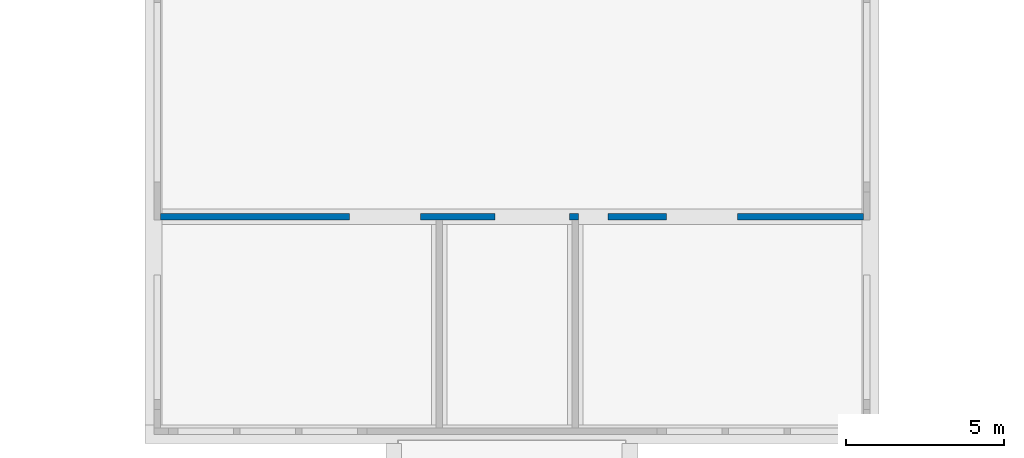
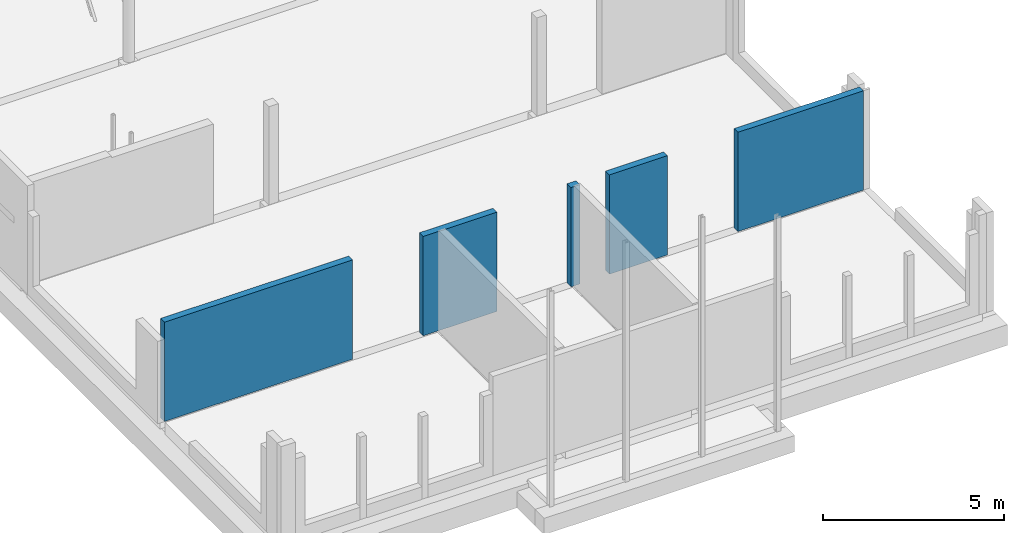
# One storey, part 16 of 17: 1 wall.
"""IFC2X3 building model written with IfcOpenShell, lengths in millimetres."""

from ifc_helpers import new_model, entity, si_unit, converted_unit, derived_unit, direction, frame, origin, place, context, subcontext, project, spatial, faceted_brep, material, layer, layer_set, type_object, element, save


model = new_model("IFC2X3")

# Units and contexts
model_context = context("Model", 3, precision=0.01, world=origin(), true_north=direction((6.123031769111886e-17, 1.0)))
body_context = subcontext(model_context, "Body", "Model", "MODEL_VIEW")
ifc_project = project(units=[si_unit("LENGTHUNIT", "METRE", prefix="MILLI"), si_unit("AREAUNIT", "SQUARE_METRE", prefix="MILLI"), si_unit("VOLUMEUNIT", "CUBIC_METRE"), converted_unit("PLANEANGLEUNIT", "DEGREE", entity("IfcPlaneAngleMeasure", 0.017453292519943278), si_unit("PLANEANGLEUNIT", "RADIAN"), dimensions=[0, 0, 0, 0, 0, 0, 0]), si_unit("MASSUNIT", "GRAM", prefix="KILO"), derived_unit("MASSDENSITYUNIT", [(si_unit("MASSUNIT", "GRAM", prefix="KILO"), 1), (si_unit("LENGTHUNIT", "METRE"), -3)]), derived_unit("IONCONCENTRATIONUNIT", [(si_unit("MASSUNIT", "GRAM", prefix="KILO"), 1), (si_unit("LENGTHUNIT", "METRE"), -3)]), derived_unit("MOMENTOFINERTIAUNIT", [(si_unit("LENGTHUNIT", "METRE"), 4)]), si_unit("TIMEUNIT", "SECOND"), si_unit("FREQUENCYUNIT", "HERTZ"), si_unit("THERMODYNAMICTEMPERATUREUNIT", "DEGREE_CELSIUS"), derived_unit("THERMALTRANSMITTANCEUNIT", [(si_unit("MASSUNIT", "GRAM", prefix="KILO"), 1), (si_unit("THERMODYNAMICTEMPERATUREUNIT", "KELVIN"), -1), (si_unit("TIMEUNIT", "SECOND"), -3)]), derived_unit("THERMALCONDUCTANCEUNIT", [(si_unit("MASSUNIT", "GRAM", prefix="KILO"), 1), (si_unit("THERMODYNAMICTEMPERATUREUNIT", "KELVIN"), -1), (si_unit("TIMEUNIT", "SECOND"), -3), (si_unit("LENGTHUNIT", "METRE"), 1)]), derived_unit("VOLUMETRICFLOWRATEUNIT", [(si_unit("LENGTHUNIT", "METRE", prefix="DECI"), 3), (si_unit("TIMEUNIT", "SECOND"), -1)]), derived_unit("MASSFLOWRATEUNIT", [(si_unit("MASSUNIT", "GRAM", prefix="KILO"), 1), (si_unit("TIMEUNIT", "SECOND"), -1)]), derived_unit("ROTATIONALFREQUENCYUNIT", [(si_unit("TIMEUNIT", "SECOND"), -1)]), si_unit("ELECTRICCURRENTUNIT", "AMPERE"), si_unit("ELECTRICVOLTAGEUNIT", "VOLT"), si_unit("POWERUNIT", "WATT"), si_unit("FORCEUNIT", "NEWTON", prefix="KILO"), si_unit("ILLUMINANCEUNIT", "LUX"), si_unit("LUMINOUSFLUXUNIT", "LUMEN"), si_unit("LUMINOUSINTENSITYUNIT", "CANDELA"), si_unit("ENERGYUNIT", "JOULE"), derived_unit("USERDEFINED", [(si_unit("MASSUNIT", "GRAM", prefix="KILO"), -1), (si_unit("LENGTHUNIT", "METRE"), -2), (si_unit("TIMEUNIT", "SECOND"), 3), (si_unit("LUMINOUSFLUXUNIT", "LUMEN"), 1)]), derived_unit("USERDEFINED", [(si_unit("MASSUNIT", "GRAM", prefix="KILO"), 1), (si_unit("TIMEUNIT", "SECOND"), -3), (si_unit("LENGTHUNIT", "METRE"), 3), (si_unit("ELECTRICCURRENTUNIT", "AMPERE"), -2)]), derived_unit("SOUNDPOWERUNIT", [(si_unit("MASSUNIT", "GRAM", prefix="KILO"), 1), (si_unit("TIMEUNIT", "SECOND"), -3), (si_unit("LENGTHUNIT", "METRE"), 2)]), derived_unit("SOUNDPRESSUREUNIT", [(si_unit("MASSUNIT", "GRAM", prefix="KILO"), 1), (si_unit("LENGTHUNIT", "METRE"), -1), (si_unit("TIMEUNIT", "SECOND"), -2)]), derived_unit("LINEARVELOCITYUNIT", [(si_unit("LENGTHUNIT", "METRE"), 1), (si_unit("TIMEUNIT", "SECOND"), -1)]), si_unit("PRESSUREUNIT", "PASCAL"), derived_unit("USERDEFINED", [(si_unit("MASSUNIT", "GRAM", prefix="KILO"), 1), (si_unit("LENGTHUNIT", "METRE"), -2), (si_unit("TIMEUNIT", "SECOND"), -2)]), derived_unit("LINEARFORCEUNIT", [(si_unit("MASSUNIT", "GRAM", prefix="KILO"), 1), (si_unit("TIMEUNIT", "SECOND"), -2)]), derived_unit("PLANARFORCEUNIT", [(si_unit("MASSUNIT", "GRAM", prefix="KILO"), 1), (si_unit("LENGTHUNIT", "METRE"), -1), (si_unit("TIMEUNIT", "SECOND"), -2)]), derived_unit("SPECIFICHEATCAPACITYUNIT", [(si_unit("THERMODYNAMICTEMPERATUREUNIT", "KELVIN"), -1), (si_unit("LENGTHUNIT", "METRE"), 2), (si_unit("TIMEUNIT", "SECOND"), -2)]), derived_unit("HEATFLUXDENSITYUNIT", [(si_unit("MASSUNIT", "GRAM", prefix="KILO"), 1), (si_unit("TIMEUNIT", "SECOND"), -3)]), derived_unit("HEATINGVALUEUNIT", [(si_unit("LENGTHUNIT", "METRE"), 2), (si_unit("TIMEUNIT", "SECOND"), -2)]), derived_unit("VAPORPERMEABILITYUNIT", [(si_unit("LENGTHUNIT", "METRE"), -1), (si_unit("TIMEUNIT", "SECOND"), 1)]), derived_unit("DYNAMICVISCOSITYUNIT", [(si_unit("MASSUNIT", "GRAM", prefix="KILO"), 1), (si_unit("TIMEUNIT", "SECOND"), -1), (si_unit("LENGTHUNIT", "METRE"), -1)]), derived_unit("THERMALEXPANSIONCOEFFICIENTUNIT", [(si_unit("THERMODYNAMICTEMPERATUREUNIT", "KELVIN"), -1)]), derived_unit("MODULUSOFELASTICITYUNIT", [(si_unit("MASSUNIT", "GRAM", prefix="KILO"), 1), (si_unit("LENGTHUNIT", "METRE"), -1), (si_unit("TIMEUNIT", "SECOND"), -2)]), derived_unit("ISOTHERMALMOISTURECAPACITYUNIT", [(si_unit("MASSUNIT", "GRAM", prefix="KILO"), -1), (si_unit("LENGTHUNIT", "METRE"), 3)]), derived_unit("MOISTUREDIFFUSIVITYUNIT", [(si_unit("TIMEUNIT", "SECOND"), -1), (si_unit("LENGTHUNIT", "METRE"), 2)]), derived_unit("MASSPERLENGTHUNIT", [(si_unit("MASSUNIT", "GRAM", prefix="KILO"), 1), (si_unit("LENGTHUNIT", "METRE"), -1)]), derived_unit("THERMALRESISTANCEUNIT", [(si_unit("MASSUNIT", "GRAM", prefix="KILO"), -1), (si_unit("TIMEUNIT", "SECOND"), 3), (si_unit("THERMODYNAMICTEMPERATUREUNIT", "KELVIN"), 1)]), derived_unit("ACCELERATIONUNIT", [(si_unit("LENGTHUNIT", "METRE"), 1), (si_unit("TIMEUNIT", "SECOND"), -2)]), derived_unit("ANGULARVELOCITYUNIT", [(si_unit("TIMEUNIT", "SECOND"), -1), (si_unit("PLANEANGLEUNIT", "RADIAN"), 1)]), derived_unit("LINEARSTIFFNESSUNIT", [(si_unit("MASSUNIT", "GRAM", prefix="KILO"), 1), (si_unit("TIMEUNIT", "SECOND"), -2)]), derived_unit("WARPINGCONSTANTUNIT", [(si_unit("LENGTHUNIT", "METRE"), 6)]), derived_unit("LINEARMOMENTUNIT", [(si_unit("MASSUNIT", "GRAM", prefix="KILO"), 1), (si_unit("LENGTHUNIT", "METRE"), 1), (si_unit("TIMEUNIT", "SECOND"), -2)]), derived_unit("TORQUEUNIT", [(si_unit("MASSUNIT", "GRAM", prefix="KILO"), 1), (si_unit("LENGTHUNIT", "METRE"), 2), (si_unit("TIMEUNIT", "SECOND"), -2)])], contexts=[model_context])

# Site, building, storey
site_placement = place(None, origin())
site = spatial("IfcSite", under=ifc_project, at=site_placement, Name="Default", CompositionType="ELEMENT")
building_placement = place(site_placement, origin())
building = spatial("IfcBuilding", under=site, at=building_placement, CompositionType="ELEMENT")
storey_placement = place(building_placement, frame((0.0, 0.0, -70.0)))
storey = spatial("IfcBuildingStorey", under=building, at=storey_placement, Name="F1 begg (bk ruwe vloer)", CompositionType="ELEMENT", Elevation=-69.99999999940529)

# Wall
ifc_material = material(Name="Kalkzandsteen, lijmwerk CS12")
ifc_layer = layer(ifc_material, 214.0)
ifc_layer_set = layer_set([ifc_layer], Name="Basic Wall:bt_kzst 214")
wall_type = type_object("IfcWallType", Name="Basic Wall:bt_kzst 214", PredefinedType="STANDARD", material=ifc_layer_set)
wall_placement = place(storey_placement, frame((6825.000781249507, 9844.605013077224, 0.0)))
element("IfcWall", 1, at=wall_placement, inside=storey, type_object=wall_type, Name="Basic Wall:bt_kzst 214", ObjectType="Basic Wall:bt_kzst 214", context=body_context, shape_type="Brep", body=[
    faceted_brep([(6000.963806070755, -107.0, 0.0), (6000.963806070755, -107.0, 3350.0), (0.0, -107.0, 3350.0), (0.0, -107.0, 2778.0), (0.0, -107.0, 0.0), (6000.963806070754, 107.0, 0.0), (6000.963806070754, 107.0, 3350.0), (6000.963806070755, 0.0, 3350.0), (0.0, 0.0, 3350.0), (0.0, 107.0, 3350.0), (0.0, 107.0, 0.0)], [[[0, 1, 2, 3, 4]], [[1, 0, 5, 6, 7]], [[4, 3, 2, 8, 9, 10]], [[8, 2, 1, 7]], [[9, 8, 7, 6]], [[5, 0, 4, 10]], [[6, 5, 10, 9]]]),
    faceted_brep([(18300.208262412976, 107.0, 0.0), (18300.208262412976, 107.0, 3350.0), (22299.984988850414, 107.0, 3350.0), (22299.984988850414, 107.0, 0.0), (22299.984988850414, 0.0, 3350.0), (18300.208262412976, 0.0, 3350.0), (18300.208262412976, -107.0, 0.0), (18300.208262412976, -107.0, 3350.0), (22299.984988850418, -107.0, 0.0), (22299.984988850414, -107.0, 3350.0), (22299.984988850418, -107.0, 2778.0)], [[[0, 1, 2, 3]], [[4, 2, 1, 5]], [[6, 7, 5, 1, 0]], [[8, 3, 2, 4, 9, 10]], [[9, 4, 5, 7]], [[6, 0, 3, 8]], [[7, 6, 8, 10, 9]]]),
    faceted_brep([(12969.796203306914, -107.0, 0.0), (12969.796203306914, 107.0, 0.0), (13260.230390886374, 107.0, 0.0), (13260.230390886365, -107.0, 0.0), (13046.354973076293, -107.0, 0.0), (12969.796203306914, 0.0, 3350.0), (12969.796203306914, -107.0, 3350.0), (13260.230390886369, -107.0, 3350.0), (13260.230390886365, 0.0, 3350.0), (12969.796203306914, 107.0, 3350.0), (13260.230390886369, 107.0, 3350.0)], [[[0, 1, 2, 3, 4]], [[5, 6, 7, 8]], [[0, 6, 5, 9, 1]], [[7, 3, 2, 10, 8]], [[9, 5, 8, 10]], [[1, 9, 10, 2]], [[6, 0, 4, 3, 7]]]),
    faceted_brep([(16049.33864469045, -107.0, 3350.0), (16049.33864469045, -107.0, 0.0), (16049.33864469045, 107.0, 0.0), (16049.33864469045, 107.0, 3350.0), (16049.33864469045, 0.0, 3350.0), (14194.214062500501, -107.0, 0.0), (14194.214062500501, -107.0, 3350.0), (14194.214062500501, 0.0, 3350.0), (14194.214062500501, 107.0, 3350.0), (14194.214062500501, 107.0, 0.0)], [[[0, 1, 2, 3, 4]], [[5, 6, 7, 8, 9]], [[0, 4, 7, 6]], [[4, 3, 8, 7]], [[2, 1, 5, 9]], [[3, 2, 9, 8]], [[1, 0, 6, 5]]]),
    faceted_brep([(10605.51027911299, -107.0, 3350.0), (10605.51027911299, -107.0, 0.0), (10605.51027911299, 107.0, 0.0), (10605.51027911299, 107.0, 3350.0), (10605.51027911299, 0.0, 3350.0), (8252.840903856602, -107.0, 0.0), (8252.840903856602, -107.0, 3350.0), (8252.840903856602, 0.0, 3350.0), (8252.840903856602, 107.0, 3350.0), (8252.840903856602, 107.0, 0.0), (8946.840903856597, -107.0, 0.0), (8732.840903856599, -107.0, 0.0)], [[[0, 1, 2, 3, 4]], [[5, 6, 7, 8, 9]], [[7, 6, 0, 4]], [[8, 7, 4, 3]], [[2, 1, 10, 11, 5, 9]], [[3, 2, 9, 8]], [[1, 0, 6, 5, 11, 10]]]),
])

save(model, "model.ifc")
